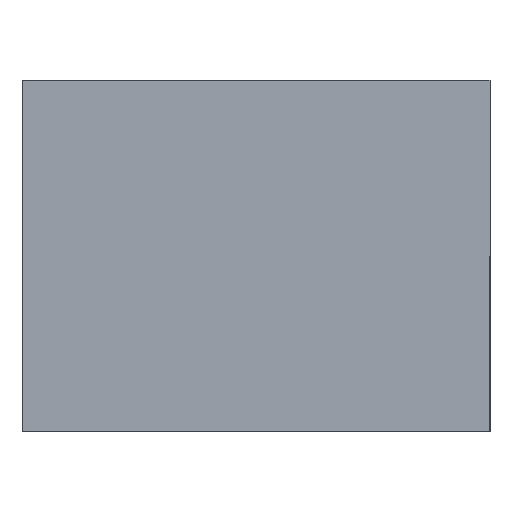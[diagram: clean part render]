
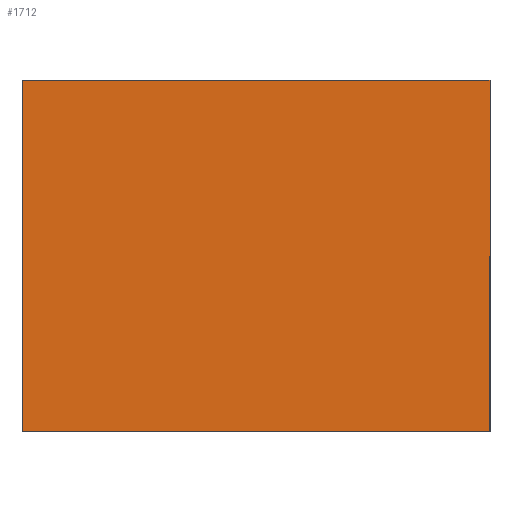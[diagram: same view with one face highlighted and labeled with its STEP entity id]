
A CAD part, front view. The second image highlights one B-rep face of the part: STEP entity #1712.
In plain terms, the highlighted planar face has unit normal (0, -1, 0).
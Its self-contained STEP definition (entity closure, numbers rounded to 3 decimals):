
#16 = EDGE_LOOP ( 'NONE', ( #2458, #931, #2468, #1183 ) ) ;
#34 = CARTESIAN_POINT ( 'NONE',  ( 0., 0., 0. ) ) ;
#140 = EDGE_CURVE ( 'NONE', #1910, #1578, #2570, .T. ) ;
#268 = EDGE_CURVE ( 'NONE', #1578, #308, #2216, .T. ) ;
#308 = VERTEX_POINT ( 'NONE', #1652 ) ;
#539 = EDGE_CURVE ( 'NONE', #308, #2370, #2210, .T. ) ;
#556 = CARTESIAN_POINT ( 'NONE',  ( -50., 0., -37.5 ) ) ;
#565 = LINE ( 'NONE', #556, #849 ) ;
#763 = EDGE_CURVE ( 'NONE', #2370, #1910, #565, .T. ) ;
#849 = VECTOR ( 'NONE', #1487, 1000. ) ;
#926 = DIRECTION ( 'NONE',  ( -1., 0., 0. ) ) ;
#931 = ORIENTED_EDGE ( 'NONE', *, *, #140, .F. ) ;
#1010 = CARTESIAN_POINT ( 'NONE',  ( 50., 0., 37.5 ) ) ;
#1084 = CARTESIAN_POINT ( 'NONE',  ( -50., 0., -37.5 ) ) ;
#1183 = ORIENTED_EDGE ( 'NONE', *, *, #539, .F. ) ;
#1487 = DIRECTION ( 'NONE',  ( 0., 0., 1. ) ) ;
#1498 = VECTOR ( 'NONE', #1784, 1000. ) ;
#1572 = VECTOR ( 'NONE', #926, 1000. ) ;
#1578 = VERTEX_POINT ( 'NONE', #1010 ) ;
#1652 = CARTESIAN_POINT ( 'NONE',  ( 50., 0., -37.5 ) ) ;
#1712 = ADVANCED_FACE ( 'NONE', ( #2123 ), #2549, .F. ) ;
#1740 = AXIS2_PLACEMENT_3D ( 'NONE', #34, #2548, #2136 ) ;
#1781 = CARTESIAN_POINT ( 'NONE',  ( 50., 0., -37.5 ) ) ;
#1784 = DIRECTION ( 'NONE',  ( 0., 0., -1. ) ) ;
#1910 = VERTEX_POINT ( 'NONE', #2407 ) ;
#2123 = FACE_OUTER_BOUND ( 'NONE', #16, .T. ) ;
#2136 = DIRECTION ( 'NONE',  ( 0., 0., 1. ) ) ;
#2210 = LINE ( 'NONE', #1084, #1572 ) ;
#2216 = LINE ( 'NONE', #1781, #1498 ) ;
#2268 = VECTOR ( 'NONE', #2562, 1000. ) ;
#2346 = CARTESIAN_POINT ( 'NONE',  ( -50., 0., -37.5 ) ) ;
#2370 = VERTEX_POINT ( 'NONE', #2346 ) ;
#2407 = CARTESIAN_POINT ( 'NONE',  ( -50., 0., 37.5 ) ) ;
#2445 = CARTESIAN_POINT ( 'NONE',  ( -50., 0., 37.5 ) ) ;
#2458 = ORIENTED_EDGE ( 'NONE', *, *, #268, .F. ) ;
#2468 = ORIENTED_EDGE ( 'NONE', *, *, #763, .F. ) ;
#2548 = DIRECTION ( 'NONE',  ( 0., 1., 0. ) ) ;
#2549 = PLANE ( 'NONE',  #1740 ) ;
#2562 = DIRECTION ( 'NONE',  ( 1., 0., 0. ) ) ;
#2570 = LINE ( 'NONE', #2445, #2268 ) ;
